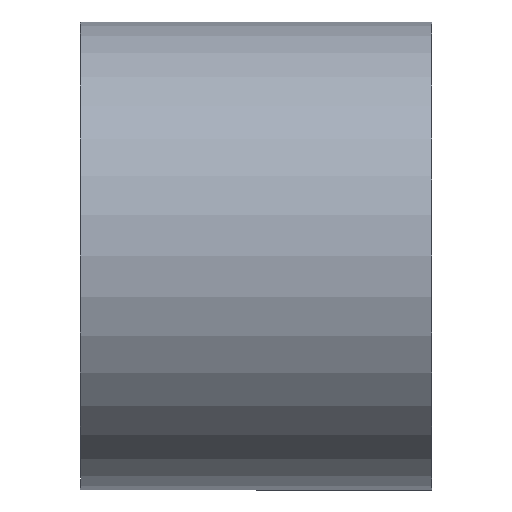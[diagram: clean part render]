
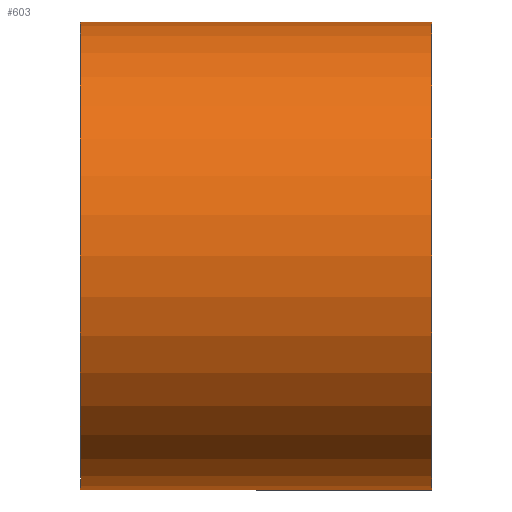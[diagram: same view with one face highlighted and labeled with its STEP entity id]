
A CAD part, front view. The second image highlights one B-rep face of the part: STEP entity #603.
In plain terms, the highlighted cylindrical face has radius 20 mm (diameter 40 mm), a partial arc.
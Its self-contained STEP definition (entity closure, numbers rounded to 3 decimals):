
#16 = AXIS2_PLACEMENT_3D ( 'NONE', #117, #848, #594 ) ;
#73 = VERTEX_POINT ( 'NONE', #418 ) ;
#104 = CARTESIAN_POINT ( 'NONE',  ( 0., 0., 0. ) ) ;
#117 = CARTESIAN_POINT ( 'NONE',  ( -15., 0., 0. ) ) ;
#142 = EDGE_CURVE ( 'NONE', #401, #733, #742, .T. ) ;
#173 = ORIENTED_EDGE ( 'NONE', *, *, #142, .T. ) ;
#218 = DIRECTION ( 'NONE',  ( -1., 0., 0. ) ) ;
#249 = ORIENTED_EDGE ( 'NONE', *, *, #273, .F. ) ;
#258 = CARTESIAN_POINT ( 'NONE',  ( 15., 0., 20. ) ) ;
#273 = EDGE_CURVE ( 'NONE', #677, #73, #826, .T. ) ;
#275 = LINE ( 'NONE', #528, #702 ) ;
#290 = ORIENTED_EDGE ( 'NONE', *, *, #313, .F. ) ;
#297 = CYLINDRICAL_SURFACE ( 'NONE', #371, 20. ) ;
#313 = EDGE_CURVE ( 'NONE', #401, #677, #327, .T. ) ;
#323 = CARTESIAN_POINT ( 'NONE',  ( 0., 0., -20. ) ) ;
#327 = LINE ( 'NONE', #323, #572 ) ;
#332 = DIRECTION ( 'NONE',  ( -1., 0., 0. ) ) ;
#343 = CARTESIAN_POINT ( 'NONE',  ( 15., 0., -20. ) ) ;
#371 = AXIS2_PLACEMENT_3D ( 'NONE', #104, #435, #645 ) ;
#401 = VERTEX_POINT ( 'NONE', #343 ) ;
#418 = CARTESIAN_POINT ( 'NONE',  ( -15., 0., 20. ) ) ;
#423 = CARTESIAN_POINT ( 'NONE',  ( 15., 0., 0. ) ) ;
#435 = DIRECTION ( 'NONE',  ( -1., 0., 0. ) ) ;
#481 = AXIS2_PLACEMENT_3D ( 'NONE', #423, #218, #485 ) ;
#485 = DIRECTION ( 'NONE',  ( 0., 0., 1. ) ) ;
#493 = FACE_OUTER_BOUND ( 'NONE', #495, .T. ) ;
#495 = EDGE_LOOP ( 'NONE', ( #290, #173, #565, #249 ) ) ;
#507 = CARTESIAN_POINT ( 'NONE',  ( -15., 0., -20. ) ) ;
#528 = CARTESIAN_POINT ( 'NONE',  ( 0., 0., 20. ) ) ;
#565 = ORIENTED_EDGE ( 'NONE', *, *, #784, .T. ) ;
#572 = VECTOR ( 'NONE', #652, 1000. ) ;
#594 = DIRECTION ( 'NONE',  ( 0., 0., 1. ) ) ;
#603 = ADVANCED_FACE ( 'NONE', ( #493 ), #297, .T. ) ;
#645 = DIRECTION ( 'NONE',  ( 0., 0., 1. ) ) ;
#652 = DIRECTION ( 'NONE',  ( -1., 0., 0. ) ) ;
#677 = VERTEX_POINT ( 'NONE', #507 ) ;
#702 = VECTOR ( 'NONE', #332, 1000. ) ;
#733 = VERTEX_POINT ( 'NONE', #258 ) ;
#742 = CIRCLE ( 'NONE', #481, 20. ) ;
#784 = EDGE_CURVE ( 'NONE', #733, #73, #275, .T. ) ;
#826 = CIRCLE ( 'NONE', #16, 20. ) ;
#848 = DIRECTION ( 'NONE',  ( -1., 0., 0. ) ) ;
